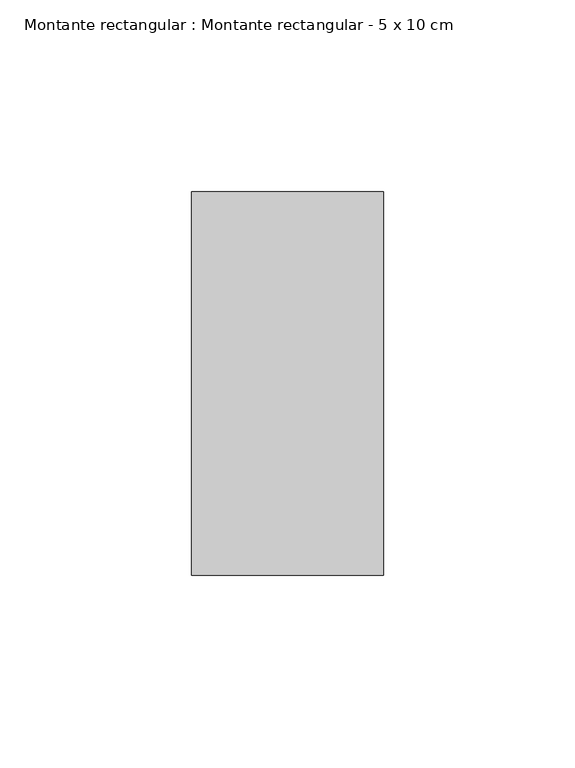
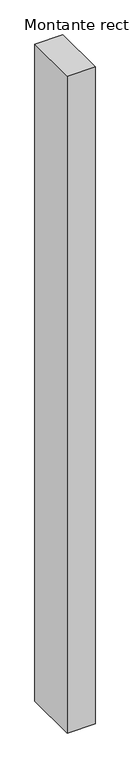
"""IFC4 building model written with IfcOpenShell, lengths in millimetres: member geometry, Montante rectangular : Montante rectangular - 5 x 10 cm."""

from ifc_helpers import new_model, si_unit, frame, origin, place, context, project, spatial, polyline, outline, extrude, source, transform, mapped, element, save


def montante_rectangular_montante_rectangular_5_x_10_cm_d58ae21d(model_context):
    return source(origin(), model_context, "Body", "SweptSolid", [
        extrude(outline(polyline([(-50.0, 50.0), (0.0, 50.0), (0.0, -50.0), (-50.0, -50.0), (-50.0, 50.0)])), frame((0.0, 0.0, -1245.0), z_axis=(0.0, 0.0, 1.0), x_axis=(1.0, 0.0, 0.0)), (0.0, 0.0, 1.0), 1245.0),
    ])


if __name__ == "__main__":
    model = new_model("IFC4")
    model_context = context("Model", 3, world=origin())
    ifc_project = project(units=[si_unit("LENGTHUNIT", "METRE", prefix="MILLI")], contexts=[model_context])
    site = spatial("IfcSite", under=ifc_project)
    building = spatial("IfcBuilding", under=site)
    placement = place(None, origin())
    montante_rectangular_montante_rectangular_5_x_10_cm_shape = montante_rectangular_montante_rectangular_5_x_10_cm_d58ae21d(model_context)
    element("IfcMember", 1, ObjectType="Montante rectangular : Montante rectangular - 5 x 10 cm", at=placement, inside=building, context=model_context, shape_type="MappedRepresentation", body=[
        mapped(montante_rectangular_montante_rectangular_5_x_10_cm_shape, transform((0.0, 0.0, 0.0), x_axis=(1.0, 0.0, 0.0), y_axis=(0.0, 1.0, 0.0), z_axis=(0.0, 0.0, 1.0))),
    ])
    save(model, "model.ifc")
